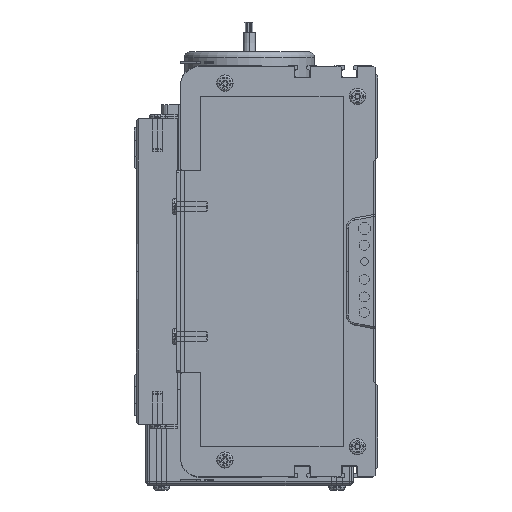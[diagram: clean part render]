
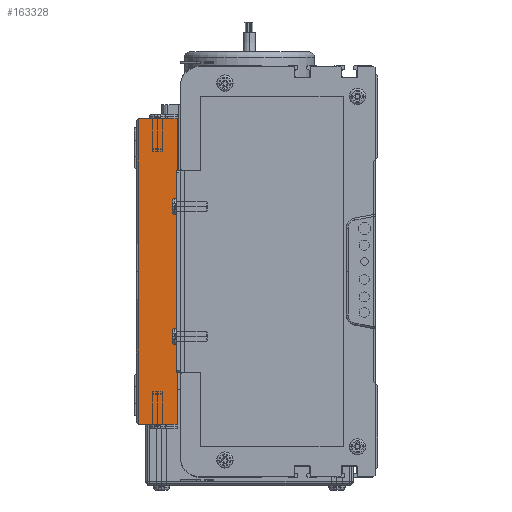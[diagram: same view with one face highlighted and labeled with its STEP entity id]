
A CAD part, left-side view. The second image highlights one B-rep face of the part: STEP entity #163328.
In plain terms, the highlighted planar face has unit normal (-1, 0, 0).
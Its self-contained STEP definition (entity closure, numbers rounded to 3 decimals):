
#3056 = VERTEX_POINT ( 'NONE', #54628 ) ;
#3061 = EDGE_CURVE ( 'NONE', #3056, #3337, #54637, .T. ) ;
#3337 = VERTEX_POINT ( 'NONE', #153181 ) ;
#54628 = CARTESIAN_POINT ( 'NONE',  ( 0., 0., -75. ) ) ;
#54634 = DIRECTION ( 'NONE',  ( 0., 0., 1. ) ) ;
#54635 = VECTOR ( 'NONE', #54634, 1000. ) ;
#54636 = CARTESIAN_POINT ( 'NONE',  ( 0., 0., 0. ) ) ;
#54637 = LINE ( 'NONE', #54636, #54635 ) ;
#101928 = DIRECTION ( 'NONE',  ( 0., 0., -1. ) ) ;
#101929 = VECTOR ( 'NONE', #101928, 1000. ) ;
#101930 = CARTESIAN_POINT ( 'NONE',  ( 0., 19., 0. ) ) ;
#101931 = LINE ( 'NONE', #101930, #101929 ) ;
#102970 = CARTESIAN_POINT ( 'NONE',  ( 0., 19., 75. ) ) ;
#103144 = CARTESIAN_POINT ( 'NONE',  ( 0., 20., -75. ) ) ;
#103145 = LINE ( 'NONE', #103144, #103251 ) ;
#103250 = DIRECTION ( 'NONE',  ( 0., -1., 0. ) ) ;
#103251 = VECTOR ( 'NONE', #103250, 1000. ) ;
#103503 = DIRECTION ( 'NONE',  ( 0., -1., 0. ) ) ;
#103505 = CARTESIAN_POINT ( 'NONE',  ( 0., 20., 75. ) ) ;
#103513 = VECTOR ( 'NONE', #103503, 1000. ) ;
#103526 = LINE ( 'NONE', #103505, #103513 ) ;
#103820 = CARTESIAN_POINT ( 'NONE',  ( 0., 19., 0. ) ) ;
#111910 = AXIS2_PLACEMENT_3D ( 'NONE', #112094, #112067, #112064 ) ;
#111991 = PLANE ( 'NONE',  #111910 ) ;
#112030 = FACE_OUTER_BOUND ( 'NONE', #163338, .T. ) ;
#112064 = DIRECTION ( 'NONE',  ( 0., 0., -1. ) ) ;
#112067 = DIRECTION ( 'NONE',  ( 1., 0., 0. ) ) ;
#112092 = CARTESIAN_POINT ( 'NONE',  ( 0., 19., -75. ) ) ;
#112094 = CARTESIAN_POINT ( 'NONE',  ( 0., 20., 0. ) ) ;
#112686 = DIRECTION ( 'NONE',  ( 0., 0., -1. ) ) ;
#112688 = VECTOR ( 'NONE', #112686, 1000. ) ;
#112689 = CARTESIAN_POINT ( 'NONE',  ( 0., 19., 0. ) ) ;
#112690 = LINE ( 'NONE', #112689, #112688 ) ;
#153181 = CARTESIAN_POINT ( 'NONE',  ( 0., 0., 75. ) ) ;
#162477 = ORIENTED_EDGE ( 'NONE', *, *, #162479, .T. ) ;
#162479 = EDGE_CURVE ( 'NONE', #162683, #163057, #101931, .T. ) ;
#162683 = VERTEX_POINT ( 'NONE', #102970 ) ;
#162718 = EDGE_CURVE ( 'NONE', #163329, #3056, #103145, .T. ) ;
#162910 = EDGE_CURVE ( 'NONE', #162683, #3337, #103526, .T. ) ;
#163057 = VERTEX_POINT ( 'NONE', #103820 ) ;
#163320 = ORIENTED_EDGE ( 'NONE', *, *, #162910, .F. ) ;
#163328 = ADVANCED_FACE ( 'NONE', ( #112030 ), #111991, .F. ) ;
#163329 = VERTEX_POINT ( 'NONE', #112092 ) ;
#163338 = EDGE_LOOP ( 'NONE', ( #163320, #162477, #163480, #163746, #163735 ) ) ;
#163477 = EDGE_CURVE ( 'NONE', #163057, #163329, #112690, .T. ) ;
#163480 = ORIENTED_EDGE ( 'NONE', *, *, #163477, .T. ) ;
#163735 = ORIENTED_EDGE ( 'NONE', *, *, #3061, .T. ) ;
#163746 = ORIENTED_EDGE ( 'NONE', *, *, #162718, .T. ) ;
